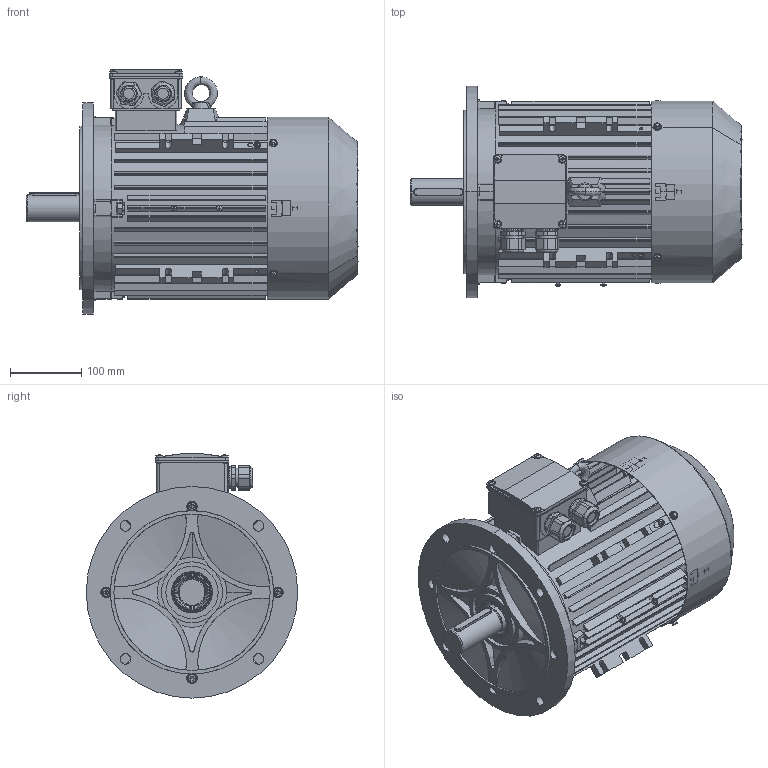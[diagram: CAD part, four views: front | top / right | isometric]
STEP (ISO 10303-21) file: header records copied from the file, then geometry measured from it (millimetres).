
FILE_DESCRIPTION (( 'STEP AP214' ), '1' );
FILE_NAME ('MX3-132S_B5.STEP', '2018-08-01T09:54:13', ( '' ), ( '' ), 'SwSTEP 2.0', 'SolidWorks 2012', '' );
FILE_SCHEMA (( 'AUTOMOTIVE_DESIGN' ));
Length unit declared in the file: millimetre
Products named in the file (29): plain parallel keys_GB_CONNECTING_PIECE_KEYS_CSK 10X70_1; cross recessed pan head screws gb_GB_CROSS_SCREWS_TYPE1 M5X8-8  H type-N_1; cross recessed pan head screws gb_GB_CROSS_SCREWS_TYPE1 M5X25-25  H type-N_1; DMX-IE3 132S4 fan_1; hexagon socket head cap screws gb_GB_FASTENER_SCREWS_HSHCS M8X45-N; plain washers--product grade c gb_GB_FASTENER_WASHER_SMWC 4_1; eyebolts gb_GB_FASTENER_SCREWS_FRS M10-S_1; cross recessed pan head screws gb_GB_CROSS_SCREWS_TYPE1 M4X6-6  H type-N_1; DMX-IE3 132S4 grouding mark_1; circlips for shaft--type a large gb_GB_CONNECTING_PIECE_RING_RRA 29_1; DMX-IE3 132S4  cable glands_1; DMX-IE3 132S4  oil seal_1; DMX-IE3 132S4   gasket for terminal box cover_1; DMX-IE3 132S4  connection board_1; DMX-IE3 132S4   gasket for terminal box base_1; hexagon socket head cap screws gb_GB_FASTENER_SCREWS_HSHCS M8X35-N_1; spring lock washers--normal type gb_GB_FASTENER_WASHER_SW 8_1; hexagon nuts grade c gb_GB_FASTENER_NUT_SNC1 M8-N_1; cross recessed pan head screws gb_GB_CROSS_SCREWS_TYPE1 M5X10-10  H type-N_1; hex flange bolts-heavy grade b gb_GB_FASTENER_BOLT_HFBB M5X10-N_1; DMX-IE3 132S4   fan cover_1; DMX-IE3 132S4  terminal box_1; DMX-IE3 132S4   terminal box cover_1; DMX-IE3 132S4   rotor2_1; DMX-IE3 132S4   rotor1_1; DMX-IE3 132S4  flange B3_1; DMX-IE3 132S4  flange B5; DMX-IE3 132S4  casing_1; MX3-132S_B5
Assembly tree (60 placements, depth 2):
  MX3-132S_B5
    DMX-IE3 132S4  casing_1
    DMX-IE3 132S4  flange B5
    DMX-IE3 132S4  flange B3_1
    DMX-IE3 132S4   rotor1_1
    DMX-IE3 132S4   rotor2_1
    DMX-IE3 132S4   terminal box cover_1
    DMX-IE3 132S4  terminal box_1
    DMX-IE3 132S4   fan cover_1
    hex flange bolts-heavy grade b gb_GB_FASTENER_BOLT_HFBB M5X10-N_1  x4
    cross recessed pan head screws gb_GB_CROSS_SCREWS_TYPE1 M5X10-10  H type-N_1  x4
    hexagon nuts grade c gb_GB_FASTENER_NUT_SNC1 M8-N_1  x7
    spring lock washers--normal type gb_GB_FASTENER_WASHER_SW 8_1  x8
    hexagon socket head cap screws gb_GB_FASTENER_SCREWS_HSHCS M8X35-N_1  x5
    DMX-IE3 132S4   gasket for terminal box base_1
    DMX-IE3 132S4  connection board_1
    DMX-IE3 132S4   gasket for terminal box cover_1
    DMX-IE3 132S4  oil seal_1
    DMX-IE3 132S4  cable glands_1  x2
    circlips for shaft--type a large gb_GB_CONNECTING_PIECE_RING_RRA 29_1
    DMX-IE3 132S4 grouding mark_1
    cross recessed pan head screws gb_GB_CROSS_SCREWS_TYPE1 M4X6-6  H type-N_1  x3
    eyebolts gb_GB_FASTENER_SCREWS_FRS M10-S_1
    plain washers--product grade c gb_GB_FASTENER_WASHER_SMWC 4_1
    hexagon socket head cap screws gb_GB_FASTENER_SCREWS_HSHCS M8X45-N  x3
    DMX-IE3 132S4 fan_1
    cross recessed pan head screws gb_GB_CROSS_SCREWS_TYPE1 M5X25-25  H type-N_1  x2
    cross recessed pan head screws gb_GB_CROSS_SCREWS_TYPE1 M5X8-8  H type-N_1  x4
    plain parallel keys_GB_CONNECTING_PIECE_KEYS_CSK 10X70_1
Bounding box: 467.6 x 298 x 344 mm (x, y, z)
Volume: 5508648 mm3; surface area: 1640548.7 mm2
Topology: 63 solids, 65 shells, 4321 faces, 11592 edges, 7535 vertices
Faces by surface type: plane 2526, cylinder 1079, cone 373, bspline 343
Entity records: 131039 total; most frequent: CARTESIAN_POINT 36392, ORIENTED_EDGE 19824, DIRECTION 18621, EDGE_CURVE 9912, VECTOR 6525, LINE 6525, VERTEX_POINT 6497, AXIS2_PLACEMENT_3D 6048
